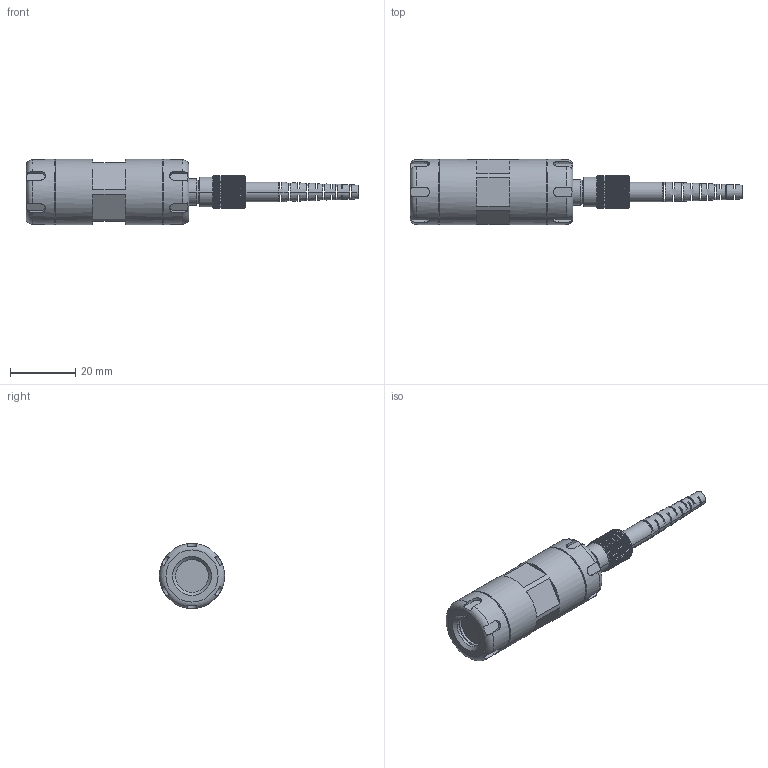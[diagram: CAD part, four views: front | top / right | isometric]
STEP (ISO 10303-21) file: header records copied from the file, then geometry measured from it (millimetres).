
FILE_DESCRIPTION(('STEP AP214'),'1');
FILE_NAME('Cellule de Sortie.stp','2017-05-17T12:32:36',(' '),(' '),'Spatial InterOp 3D',' ',' ');
FILE_SCHEMA(('automotive_design'));
Length unit declared in the file: millimetre
Products named in the file (19): FC-APC Connector; Fixation Connecteur FC; Ø12.7 FCPC Fiber Adapter; Ø5 x 1 - FPM80; Fixation Windows; Bague Teflon Ø15x 1; Window Ø12,7 x 3 - 10530; Ø8 x 1 - FPM80; Monobloc Sortie
Assembly tree (18 placements, depth 3):
  (unnamed)
    FC-APC Connector
      FC-APC Connector
      FC-APC Connector
      FC-APC Connector
      FC-APC Connector
    Fixation Connecteur FC
    Ø12.7 FCPC Fiber Adapter
      Ø12.7 FCPC Fiber Adapter
      Ø12.7 FCPC Fiber Adapter
      Ø12.7 FCPC Fiber Adapter
      Ø12.7 FCPC Fiber Adapter
      Ø12.7 FCPC Fiber Adapter
    Ø5 x 1 - FPM80
    Fixation Windows
    Bague Teflon Ø15x 1
    Window Ø12,7 x 3 - 10530
    Ø8 x 1 - FPM80
    Monobloc Sortie
Bounding box: 101.9 x 20 x 20 mm (x, y, z)
Volume: 14870.7 mm3; surface area: 11904.4 mm2
Topology: 16 solids, 16 shells, 673 faces, 1952 edges, 1345 vertices
Faces by surface type: plane 392, cylinder 204, cone 51, torus 18, bspline 8
Full cylindrical faces by diameter (mm): 3 x1, 5 x1, 6 x1, 7.4 x1, 8 x1, 9 x1, 10 x2, 10.4 x1, 12.8 x2, 14.6 x2, 15 x3, 16 x2, 16.4 x2, 20 x3
Entity records: 31255 total; most frequent: CARTESIAN_POINT 8289, ORIENTED_EDGE 3758, DIRECTION 3291, EDGE_CURVE 1879, VERTEX_POINT 1337, AXIS2_PLACEMENT_3D 1269, EDGE_LOOP 838, LINE 753
